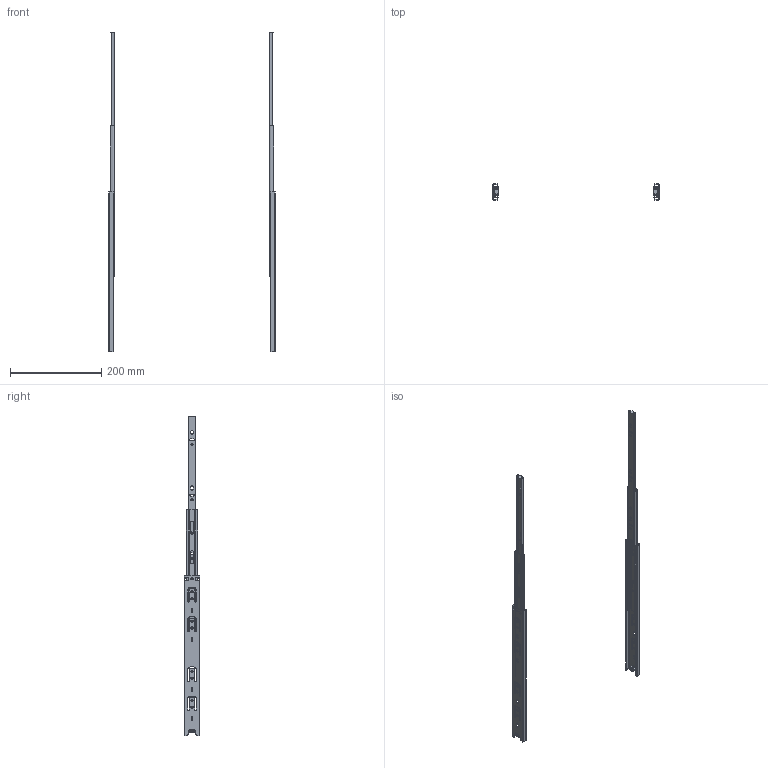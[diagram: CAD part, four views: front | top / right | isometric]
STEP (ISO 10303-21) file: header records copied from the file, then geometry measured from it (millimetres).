
FILE_DESCRIPTION(/* description */ (''),/* implementation_level */ '2;1');
FILE_NAME(/* name */ 'D:\$Workingspace\Designs\Katalog\Cadsoft\GTV Prowadnice\Prowadnice GTV_bryły 3D\PK-0H35-3500_wysunieta.stp',/* time_stamp */ '2016-11-22T11:18:36+01:00',/* author */ ('tomaszw'),/* organization */ (''),/* preprocessor_version */ 'ST-DEVELOPER v16.1',/* originating_system */ 'Autodesk Inventor 2016',/* authorisation */ '');
FILE_SCHEMA (('AUTOMOTIVE_DESIGN { 1 0 10303 214 3 1 1 }'));
Length unit declared in the file: millimetre
Products named in the file (5): PK-0H35_1-350; PK-0H35_2-350; PK-0H35_3-350; Blokada_3; PK-0H35
Assembly tree (8 placements, depth 2):
  PK-0H35
    PK-0H35_1-350  x2
    PK-0H35_2-350  x2
    PK-0H35_3-350  x2
    Blokada_3  x2
Bounding box: 364 x 34.8 x 700 mm (x, y, z)
Volume: 72250.1 mm3; surface area: 174900.8 mm2
Topology: 8 solids, 8 shells, 502 faces, 1458 edges, 972 vertices
Faces by surface type: plane 252, cylinder 250
Full cylindrical faces by diameter (mm): 4.5 x16, 5 x10
Entity records: 8833 total; most frequent: DIRECTION 1486, CARTESIAN_POINT 1484, ORIENTED_EDGE 1432, EDGE_CURVE 716, AXIS2_PLACEMENT_3D 510, VERTEX_POINT 486, LINE 466, VECTOR 466
